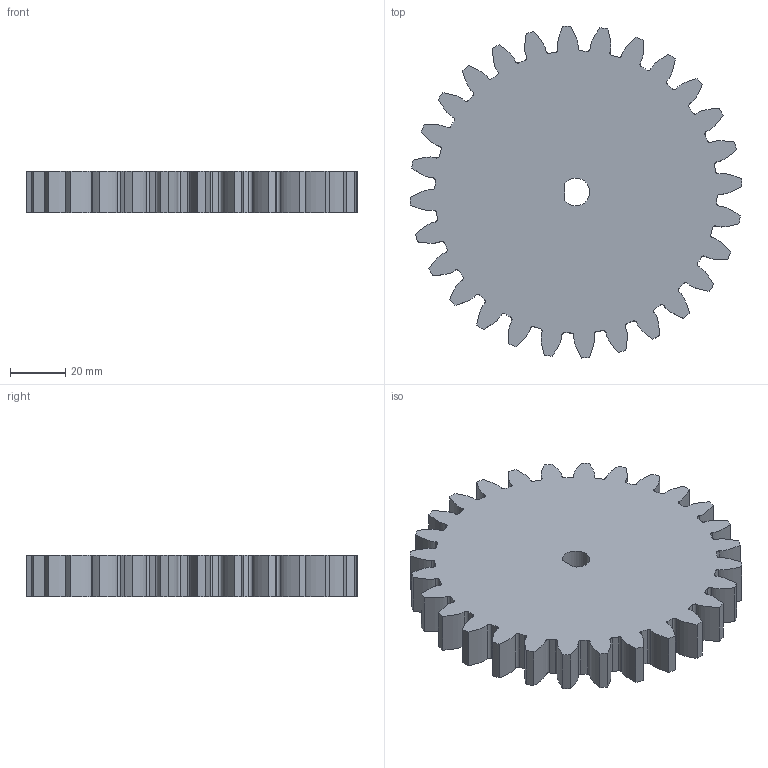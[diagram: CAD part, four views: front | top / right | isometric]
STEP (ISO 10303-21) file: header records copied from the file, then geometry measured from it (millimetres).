
FILE_DESCRIPTION (( 'STEP AP203' ), '1' );
FILE_NAME ('Pignon denture droite m=4 Z=28.STEP', '2025-09-18T12:03:44', ( '' ), ( '' ), 'SwSTEP 2.0', 'SolidWorks 2019', '' );
FILE_SCHEMA (( 'CONFIG_CONTROL_DESIGN' ));
Length unit declared in the file: millimetre
Products named in the file (1): Pignon denture droite m=4 Z=28
Bounding box: 119.94 x 119.94 x 15 mm (x, y, z)
Volume: 144577.3 mm3; surface area: 30404.6 mm2
Topology: 1 solids, 1 shells, 186 faces, 552 edges, 368 vertices
Faces by surface type: cylinder 127, bspline 56, plane 3
Entity records: 7215 total; most frequent: CARTESIAN_POINT 2283, ORIENTED_EDGE 1104, DIRECTION 956, EDGE_CURVE 552, AXIS2_PLACEMENT_3D 385, VERTEX_POINT 368, CIRCLE 254, EDGE_LOOP 188
